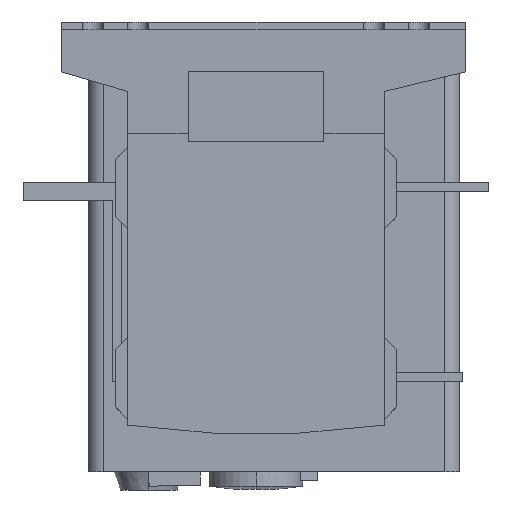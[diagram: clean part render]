
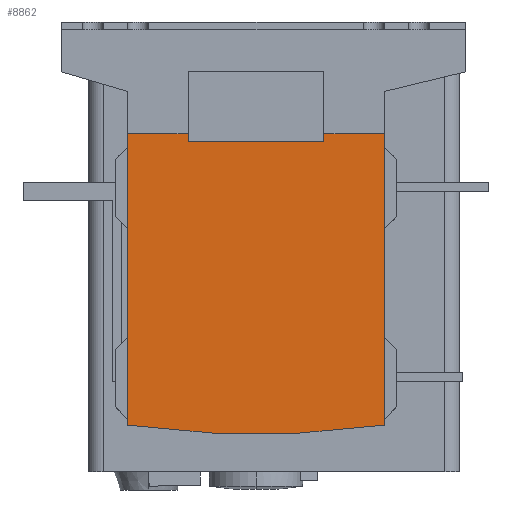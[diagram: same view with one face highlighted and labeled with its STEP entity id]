
A CAD part, left-side view. The second image highlights one B-rep face of the part: STEP entity #8862.
In plain terms, the highlighted planar face has unit normal (-1, 0, 0).
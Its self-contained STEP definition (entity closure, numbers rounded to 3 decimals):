
#870=DIRECTION('',(0.,0.,1.));
#871=VECTOR('',#870,96.5);
#872=CARTESIAN_POINT('',(-261.,-36.5,-127.5));
#873=LINE('',#872,#871);
#2026=DIRECTION('',(0.,1.,0.));
#2027=VECTOR('',#2026,45.);
#2028=CARTESIAN_POINT('',(-261.,-16.5,-33.5));
#2029=LINE('',#2028,#2027);
#2030=DIRECTION('',(0.,0.,1.));
#2031=VECTOR('',#2030,2.5);
#2032=CARTESIAN_POINT('',(-261.,-16.5,-33.5));
#2033=LINE('',#2032,#2031);
#2034=CARTESIAN_POINT('',(-261.,6.,172.042));
#2035=DIRECTION('',(-1.,0.,0.));
#2036=DIRECTION('',(0.,0.14,-0.99));
#2037=AXIS2_PLACEMENT_3D('',#2034,#2035,#2036);
#2039=DIRECTION('',(0.,0.,1.));
#2040=VECTOR('',#2039,96.5);
#2041=CARTESIAN_POINT('',(-261.,48.5,-127.5));
#2042=LINE('',#2041,#2040);
#2055=DIRECTION('',(0.,0.,1.));
#2056=VECTOR('',#2055,2.5);
#2057=CARTESIAN_POINT('',(-261.,28.5,-33.5));
#2058=LINE('',#2057,#2056);
#2067=DIRECTION('',(0.,-1.,0.));
#2068=VECTOR('',#2067,20.);
#2069=CARTESIAN_POINT('',(-261.,48.5,-31.));
#2070=LINE('',#2069,#2068);
#2079=DIRECTION('',(0.,-1.,0.));
#2080=VECTOR('',#2079,20.);
#2081=CARTESIAN_POINT('',(-261.,-16.5,-31.));
#2082=LINE('',#2081,#2080);
#4443=CARTESIAN_POINT('',(-261.,48.5,-127.5));
#4444=CARTESIAN_POINT('',(-261.,-36.5,-127.5));
#4445=VERTEX_POINT('',#4443);
#4446=VERTEX_POINT('',#4444);
#4667=CARTESIAN_POINT('',(-261.,48.5,-31.));
#4668=CARTESIAN_POINT('',(-261.,28.5,-31.));
#4669=VERTEX_POINT('',#4667);
#4670=VERTEX_POINT('',#4668);
#4671=CARTESIAN_POINT('',(-261.,-16.5,-31.));
#4672=CARTESIAN_POINT('',(-261.,-36.5,-31.));
#4673=VERTEX_POINT('',#4671);
#4674=VERTEX_POINT('',#4672);
#4683=CARTESIAN_POINT('',(-261.,-16.5,-33.5));
#4684=CARTESIAN_POINT('',(-261.,28.5,-33.5));
#4685=VERTEX_POINT('',#4683);
#4686=VERTEX_POINT('',#4684);
#8840=CARTESIAN_POINT('',(-261.,0.,0.));
#8841=DIRECTION('',(-1.,0.,0.));
#8842=DIRECTION('',(0.,1.,0.));
#8843=AXIS2_PLACEMENT_3D('',#8840,#8841,#8842);
#8844=PLANE('',#8843);
#8846=ORIENTED_EDGE('',*,*,#8845,.F.);
#8848=ORIENTED_EDGE('',*,*,#8847,.T.);
#8850=ORIENTED_EDGE('',*,*,#8849,.T.);
#8851=ORIENTED_EDGE('',*,*,#6966,.F.);
#8853=ORIENTED_EDGE('',*,*,#8852,.F.);
#8855=ORIENTED_EDGE('',*,*,#8854,.T.);
#8857=ORIENTED_EDGE('',*,*,#8856,.T.);
#8859=ORIENTED_EDGE('',*,*,#8858,.F.);
#8860=EDGE_LOOP('',(#8846,#8848,#8850,#8851,#8853,#8855,#8857,#8859));
#8861=FACE_OUTER_BOUND('',#8860,.F.);
#8862=ADVANCED_FACE('',(#8861),#8844,.T.);
#2038=CIRCLE('',#2037,302.542);
#6966=EDGE_CURVE('',#4446,#4674,#873,.T.);
#8845=EDGE_CURVE('',#4685,#4686,#2029,.T.);
#8847=EDGE_CURVE('',#4685,#4673,#2033,.T.);
#8849=EDGE_CURVE('',#4673,#4674,#2082,.T.);
#8852=EDGE_CURVE('',#4445,#4446,#2038,.T.);
#8854=EDGE_CURVE('',#4445,#4669,#2042,.T.);
#8856=EDGE_CURVE('',#4669,#4670,#2070,.T.);
#8858=EDGE_CURVE('',#4686,#4670,#2058,.T.);
